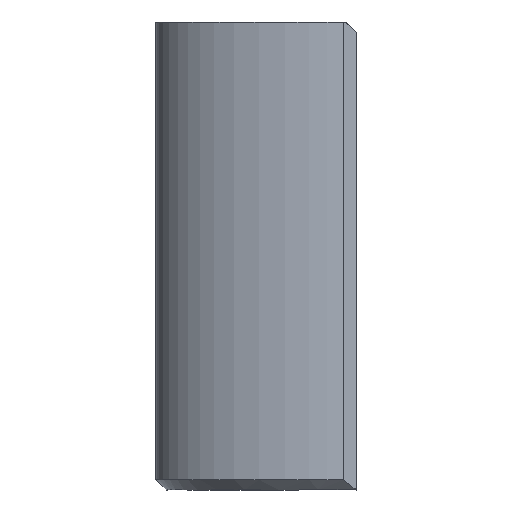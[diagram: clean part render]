
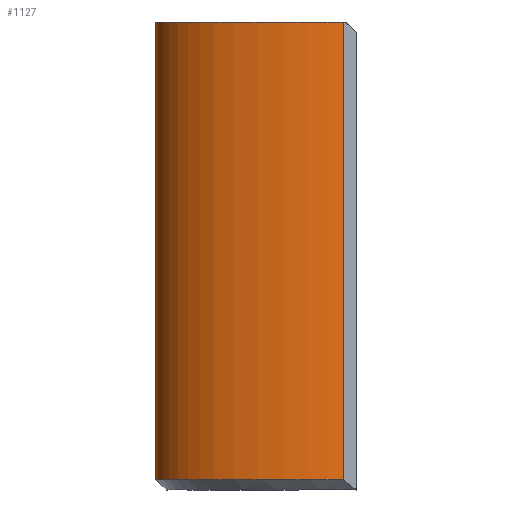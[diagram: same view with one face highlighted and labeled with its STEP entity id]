
A CAD part, front view. The second image highlights one B-rep face of the part: STEP entity #1127.
In plain terms, the highlighted free-form (B-spline) face has degree [3, 1] with [4, 2] control points.
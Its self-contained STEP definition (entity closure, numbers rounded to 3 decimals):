
#23 = LINE ( 'NONE', #288, #597 ) ;
#57 = CARTESIAN_POINT ( 'NONE',  ( -5., 0., -7.65 ) ) ;
#115 = VERTEX_POINT ( 'NONE', #1226 ) ;
#149 = DIRECTION ( 'NONE',  ( 0., 0., 1. ) ) ;
#190 = EDGE_CURVE ( 'NONE', #115, #1392, #761, .T. ) ;
#225 = VERTEX_POINT ( 'NONE', #491 ) ;
#227 = EDGE_CURVE ( 'NONE', #1230, #225, #23, .T. ) ;
#288 = CARTESIAN_POINT ( 'NONE',  ( 1.411, -2.806, -7.65 ) ) ;
#361 = CARTESIAN_POINT ( 'NONE',  ( -2.083, -3.408, -7.65 ) ) ;
#405 = VECTOR ( 'NONE', #1687, 1000. ) ;
#461 = EDGE_CURVE ( 'NONE', #1392, #1230, #1085, .T. ) ;
#491 = CARTESIAN_POINT ( 'NONE',  ( 1.411, -2.806, 8. ) ) ;
#597 = VECTOR ( 'NONE', #149, 1000. ) ;
#658 =( BOUNDED_SURFACE ( )  B_SPLINE_SURFACE ( 3, 1, ( 
 ( #995, #1331 ),
 ( #1487, #1156 ),
 ( #1625, #361 ),
 ( #708, #1146 ) ),
 .UNSPECIFIED., .F., .F., .T. ) 
 B_SPLINE_SURFACE_WITH_KNOTS ( ( 4, 4 ),
 ( 2, 2 ),
 ( 0., 1. ),
 ( 0., 1. ),
 .UNSPECIFIED. ) 
 GEOMETRIC_REPRESENTATION_ITEM ( )  RATIONAL_B_SPLINE_SURFACE ( (
 ( 1., 1.),
 ( 0.733, 0.733),
 ( 0.733, 0.733),
 ( 1., 1.) ) ) 
 REPRESENTATION_ITEM ( '' )  SURFACE ( )  );
#708 = CARTESIAN_POINT ( 'NONE',  ( 1.411, -2.806, 8. ) ) ;
#724 = CARTESIAN_POINT ( 'NONE',  ( 1.411, -2.806, 8. ) ) ;
#759 = ORIENTED_EDGE ( 'NONE', *, *, #461, .T. ) ;
#761 = LINE ( 'NONE', #898, #405 ) ;
#767 = EDGE_LOOP ( 'NONE', ( #1178, #922, #759, #1018 ) ) ;
#808 = CARTESIAN_POINT ( 'NONE',  ( 1.411, -2.806, -7.65 ) ) ;
#874 = EDGE_CURVE ( 'NONE', #115, #225, #1294, .T. ) ;
#898 = CARTESIAN_POINT ( 'NONE',  ( -5., 0., 8. ) ) ;
#922 = ORIENTED_EDGE ( 'NONE', *, *, #190, .T. ) ;
#995 = CARTESIAN_POINT ( 'NONE',  ( -5., 0., 8. ) ) ;
#1018 = ORIENTED_EDGE ( 'NONE', *, *, #227, .T. ) ;
#1030 = CARTESIAN_POINT ( 'NONE',  ( -2.083, -3.408, 8. ) ) ;
#1039 = CARTESIAN_POINT ( 'NONE',  ( -5., 0., 8. ) ) ;
#1071 = CARTESIAN_POINT ( 'NONE',  ( 1.411, -2.806, -7.65 ) ) ;
#1085 =( BOUNDED_CURVE ( )  B_SPLINE_CURVE ( 3, ( #1254, #1736, #1598, #808 ),
 .UNSPECIFIED., .F., .T. ) 
 B_SPLINE_CURVE_WITH_KNOTS ( ( 4, 4 ),
 ( 0.503, 1. ),
 .UNSPECIFIED. ) 
 CURVE ( )  GEOMETRIC_REPRESENTATION_ITEM ( )  RATIONAL_B_SPLINE_CURVE ( ( 1., 0.733, 0.733, 1. ) ) 
 REPRESENTATION_ITEM ( '' )  );
#1127 = ADVANCED_FACE ( 'NONE', ( #1923 ), #658, .F. ) ;
#1146 = CARTESIAN_POINT ( 'NONE',  ( 1.411, -2.806, -7.65 ) ) ;
#1156 = CARTESIAN_POINT ( 'NONE',  ( -5., -2.131, -7.65 ) ) ;
#1178 = ORIENTED_EDGE ( 'NONE', *, *, #874, .F. ) ;
#1226 = CARTESIAN_POINT ( 'NONE',  ( -5., 0., 8. ) ) ;
#1230 = VERTEX_POINT ( 'NONE', #1071 ) ;
#1254 = CARTESIAN_POINT ( 'NONE',  ( -5., 0., -7.65 ) ) ;
#1294 =( BOUNDED_CURVE ( )  B_SPLINE_CURVE ( 3, ( #1039, #1334, #1030, #724 ),
 .UNSPECIFIED., .F., .T. ) 
 B_SPLINE_CURVE_WITH_KNOTS ( ( 4, 4 ),
 ( 0., 1.857 ),
 .UNSPECIFIED. ) 
 CURVE ( )  GEOMETRIC_REPRESENTATION_ITEM ( )  RATIONAL_B_SPLINE_CURVE ( ( 1., 0.733, 0.733, 1. ) ) 
 REPRESENTATION_ITEM ( '' )  );
#1331 = CARTESIAN_POINT ( 'NONE',  ( -5., 0., -7.65 ) ) ;
#1334 = CARTESIAN_POINT ( 'NONE',  ( -5., -2.131, 8. ) ) ;
#1392 = VERTEX_POINT ( 'NONE', #57 ) ;
#1487 = CARTESIAN_POINT ( 'NONE',  ( -5., -2.131, 8. ) ) ;
#1598 = CARTESIAN_POINT ( 'NONE',  ( -2.083, -3.408, -7.65 ) ) ;
#1625 = CARTESIAN_POINT ( 'NONE',  ( -2.083, -3.408, 8. ) ) ;
#1687 = DIRECTION ( 'NONE',  ( 0., 0., -1. ) ) ;
#1736 = CARTESIAN_POINT ( 'NONE',  ( -5., -2.131, -7.65 ) ) ;
#1923 = FACE_OUTER_BOUND ( 'NONE', #767, .T. ) ;
